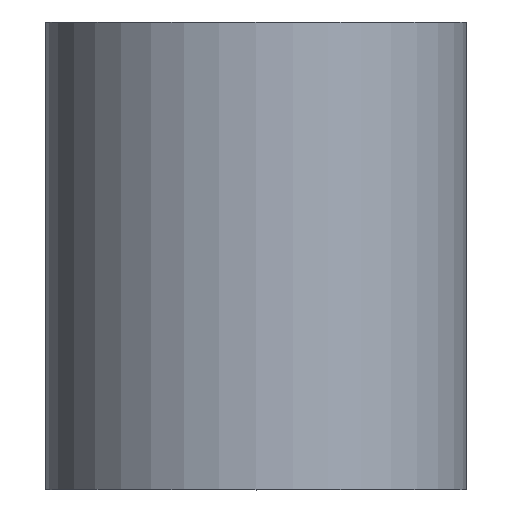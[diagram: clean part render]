
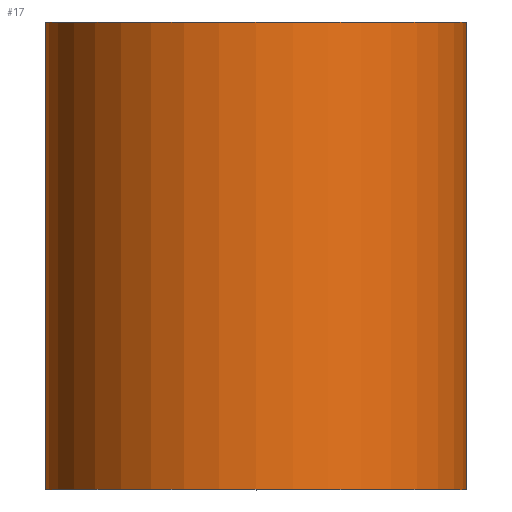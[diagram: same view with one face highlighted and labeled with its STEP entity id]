
A CAD part, top view. The second image highlights one B-rep face of the part: STEP entity #17.
In plain terms, the highlighted cylindrical face has radius 4.5 mm (diameter 9 mm), a full revolution.
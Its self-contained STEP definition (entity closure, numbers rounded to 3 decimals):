
#17 = ADVANCED_FACE('',(#18),#45,.T.);
#18 = FACE_BOUND('',#19,.T.);
#19 = EDGE_LOOP('',(#20,#29,#37,#44));
#20 = ORIENTED_EDGE('',*,*,#21,.F.);
#21 = EDGE_CURVE('',#22,#22,#24,.T.);
#22 = VERTEX_POINT('',#23);
#23 = CARTESIAN_POINT('',(-56.,0.,218.5));
#24 = CIRCLE('',#25,4.5);
#25 = AXIS2_PLACEMENT_3D('',#26,#27,#28);
#26 = CARTESIAN_POINT('',(-56.,0.,214.));
#27 = DIRECTION('',(0.,1.,0.));
#28 = DIRECTION('',(0.,0.,1.));
#29 = ORIENTED_EDGE('',*,*,#30,.F.);
#30 = EDGE_CURVE('',#31,#22,#33,.T.);
#31 = VERTEX_POINT('',#32);
#32 = CARTESIAN_POINT('',(-56.,-10.,218.5));
#33 = LINE('',#34,#35);
#34 = CARTESIAN_POINT('',(-56.,-10.,218.5));
#35 = VECTOR('',#36,1.);
#36 = DIRECTION('',(0.,1.,0.));
#37 = ORIENTED_EDGE('',*,*,#38,.T.);
#38 = EDGE_CURVE('',#31,#31,#39,.T.);
#39 = CIRCLE('',#40,4.5);
#40 = AXIS2_PLACEMENT_3D('',#41,#42,#43);
#41 = CARTESIAN_POINT('',(-56.,-10.,214.));
#42 = DIRECTION('',(0.,1.,0.));
#43 = DIRECTION('',(0.,0.,1.));
#44 = ORIENTED_EDGE('',*,*,#30,.T.);
#45 = CYLINDRICAL_SURFACE('',#46,4.5);
#46 = AXIS2_PLACEMENT_3D('',#47,#48,#49);
#47 = CARTESIAN_POINT('',(-56.,-10.,214.));
#48 = DIRECTION('',(0.,1.,0.));
#49 = DIRECTION('',(0.,0.,1.));
